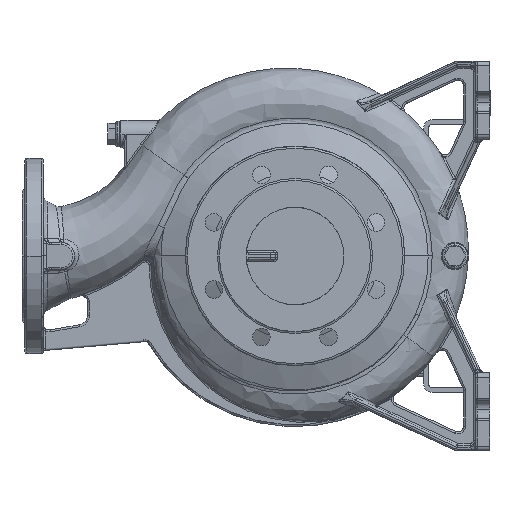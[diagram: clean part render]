
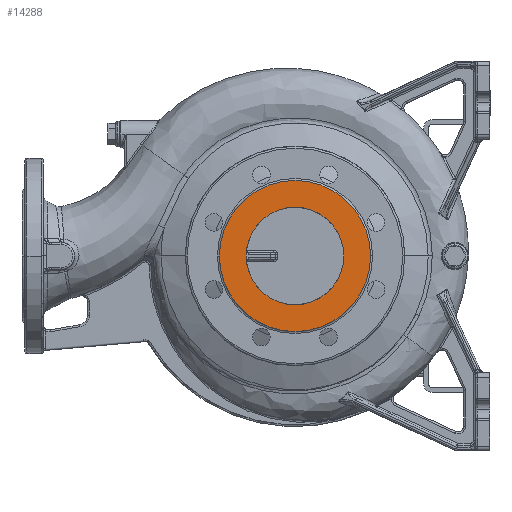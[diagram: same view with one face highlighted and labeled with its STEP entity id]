
A CAD part, front view. The second image highlights one B-rep face of the part: STEP entity #14288.
In plain terms, the highlighted planar face has unit normal (0, -1, 0).
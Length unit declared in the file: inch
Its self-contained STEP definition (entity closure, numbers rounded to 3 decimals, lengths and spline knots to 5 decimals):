
#2058 = VERTEX_POINT ( 'NONE', #17023 ) ;
#5283 = AXIS2_PLACEMENT_3D ( 'NONE', #92703, #41899, #40317 ) ;
#5295 = VERTEX_POINT ( 'NONE', #119892 ) ;
#14288 = ADVANCED_FACE ( 'NONE', ( #139884, #40626 ), #115678, .F. ) ;
#17023 = CARTESIAN_POINT ( 'NONE',  ( 1.9685, -11.81102, 0. ) ) ;
#23069 = EDGE_LOOP ( 'NONE', ( #126721, #87314 ) ) ;
#24998 = DIRECTION ( 'NONE',  ( -1., 0., 0. ) ) ;
#27717 = DIRECTION ( 'NONE',  ( 1., 0., 0. ) ) ;
#28625 = CARTESIAN_POINT ( 'NONE',  ( -3.05118, -11.81102, 0. ) ) ;
#36478 = VERTEX_POINT ( 'NONE', #28625 ) ;
#37563 = AXIS2_PLACEMENT_3D ( 'NONE', #122693, #86323, #24998 ) ;
#38164 = DIRECTION ( 'NONE',  ( 0., 1., 0. ) ) ;
#40317 = DIRECTION ( 'NONE',  ( -1., 0., 0. ) ) ;
#40626 = FACE_BOUND ( 'NONE', #23069, .T. ) ;
#41899 = DIRECTION ( 'NONE',  ( 0., 1., 0. ) ) ;
#49665 = DIRECTION ( 'NONE',  ( -1., 0., 0. ) ) ;
#54230 = CIRCLE ( 'NONE', #5283, 1.9685 ) ;
#54677 = EDGE_LOOP ( 'NONE', ( #97761, #118055 ) ) ;
#55911 = CARTESIAN_POINT ( 'NONE',  ( 0., -11.81102, 0. ) ) ;
#58946 = CARTESIAN_POINT ( 'NONE',  ( -1.9685, -11.81102, 0. ) ) ;
#63184 = CARTESIAN_POINT ( 'NONE',  ( 0., -11.81102, 0. ) ) ;
#77190 = AXIS2_PLACEMENT_3D ( 'NONE', #108662, #85989, #49665 ) ;
#85989 = DIRECTION ( 'NONE',  ( 0., -1., 0. ) ) ;
#86323 = DIRECTION ( 'NONE',  ( 0., -1., 0. ) ) ;
#87314 = ORIENTED_EDGE ( 'NONE', *, *, #141293, .T. ) ;
#91937 = CIRCLE ( 'NONE', #148642, 3.05118 ) ;
#92623 = CIRCLE ( 'NONE', #77190, 1.9685 ) ;
#92703 = CARTESIAN_POINT ( 'NONE',  ( 0., -11.81102, 0. ) ) ;
#97761 = ORIENTED_EDGE ( 'NONE', *, *, #147580, .F. ) ;
#98268 = EDGE_CURVE ( 'NONE', #121546, #2058, #92623, .T. ) ;
#108662 = CARTESIAN_POINT ( 'NONE',  ( 0., -11.81102, 0. ) ) ;
#109328 = AXIS2_PLACEMENT_3D ( 'NONE', #55911, #141470, #27717 ) ;
#115678 = PLANE ( 'NONE',  #109328 ) ;
#118055 = ORIENTED_EDGE ( 'NONE', *, *, #157348, .T. ) ;
#119892 = CARTESIAN_POINT ( 'NONE',  ( 3.05118, -11.81102, 0. ) ) ;
#121546 = VERTEX_POINT ( 'NONE', #58946 ) ;
#122693 = CARTESIAN_POINT ( 'NONE',  ( 0., -11.81102, 0. ) ) ;
#126721 = ORIENTED_EDGE ( 'NONE', *, *, #98268, .F. ) ;
#134250 = DIRECTION ( 'NONE',  ( -1., 0., 0. ) ) ;
#139884 = FACE_OUTER_BOUND ( 'NONE', #54677, .T. ) ;
#141293 = EDGE_CURVE ( 'NONE', #121546, #2058, #54230, .T. ) ;
#141470 = DIRECTION ( 'NONE',  ( 0., 1., 0. ) ) ;
#147580 = EDGE_CURVE ( 'NONE', #36478, #5295, #91937, .T. ) ;
#148642 = AXIS2_PLACEMENT_3D ( 'NONE', #63184, #38164, #134250 ) ;
#156117 = CIRCLE ( 'NONE', #37563, 3.05118 ) ;
#157348 = EDGE_CURVE ( 'NONE', #36478, #5295, #156117, .T. ) ;
